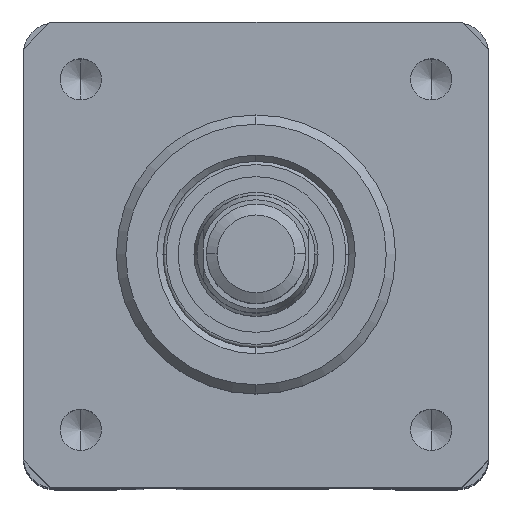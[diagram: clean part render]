
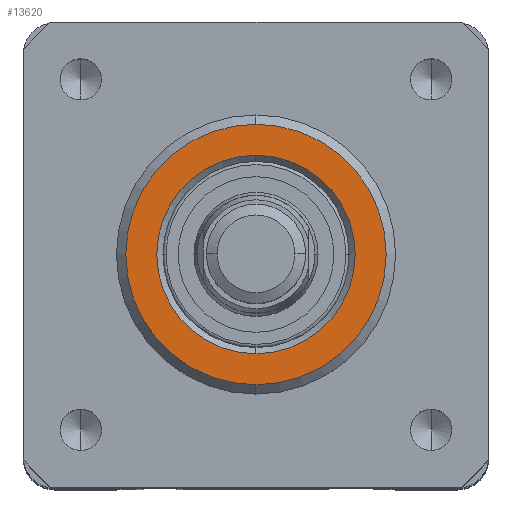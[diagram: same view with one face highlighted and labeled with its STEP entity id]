
A CAD part, top view. The second image highlights one B-rep face of the part: STEP entity #13620.
In plain terms, the highlighted planar face has unit normal (0, 0, 1).
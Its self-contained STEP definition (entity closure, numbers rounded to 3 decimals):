
#943 = CARTESIAN_POINT ( 'NONE',  ( 0., 0., 220. ) ) ;
#1484 = AXIS2_PLACEMENT_3D ( 'NONE', #15652, #13535, #21618 ) ;
#1639 = CIRCLE ( 'NONE', #4574, 21. ) ;
#2810 = EDGE_CURVE ( 'NONE', #6059, #14017, #11169, .T. ) ;
#2962 = CARTESIAN_POINT ( 'NONE',  ( 0., 21., 220. ) ) ;
#3065 = PLANE ( 'NONE',  #13889 ) ;
#3110 = AXIS2_PLACEMENT_3D ( 'NONE', #943, #25415, #9100 ) ;
#3682 = DIRECTION ( 'NONE',  ( 0., 0., -1. ) ) ;
#4574 = AXIS2_PLACEMENT_3D ( 'NONE', #12965, #25024, #12884 ) ;
#4974 = VERTEX_POINT ( 'NONE', #25033 ) ;
#5702 = DIRECTION ( 'NONE',  ( 0., -1., 0. ) ) ;
#6059 = VERTEX_POINT ( 'NONE', #17566 ) ;
#8669 = VERTEX_POINT ( 'NONE', #2962 ) ;
#9100 = DIRECTION ( 'NONE',  ( 0., 1., 0. ) ) ;
#9524 = AXIS2_PLACEMENT_3D ( 'NONE', #15789, #3682, #5702 ) ;
#11169 = CIRCLE ( 'NONE', #3110, 16. ) ;
#11753 = EDGE_CURVE ( 'NONE', #4974, #8669, #1639, .T. ) ;
#12882 = ORIENTED_EDGE ( 'NONE', *, *, #15960, .T. ) ;
#12884 = DIRECTION ( 'NONE',  ( 0., -1., 0. ) ) ;
#12965 = CARTESIAN_POINT ( 'NONE',  ( 0., 0., 220. ) ) ;
#13535 = DIRECTION ( 'NONE',  ( 0., 0., -1. ) ) ;
#13620 = ADVANCED_FACE ( 'NONE', ( #22078, #18549 ), #3065, .T. ) ;
#13889 = AXIS2_PLACEMENT_3D ( 'NONE', #25578, #15517, #23510 ) ;
#14017 = VERTEX_POINT ( 'NONE', #25786 ) ;
#14733 = EDGE_LOOP ( 'NONE', ( #21128, #12882 ) ) ;
#15517 = DIRECTION ( 'NONE',  ( 0., 0., 1. ) ) ;
#15652 = CARTESIAN_POINT ( 'NONE',  ( 0., 0., 220. ) ) ;
#15789 = CARTESIAN_POINT ( 'NONE',  ( 0., 0., 220. ) ) ;
#15960 = EDGE_CURVE ( 'NONE', #14017, #6059, #23689, .T. ) ;
#17566 = CARTESIAN_POINT ( 'NONE',  ( 0., 16., 220. ) ) ;
#18549 = FACE_OUTER_BOUND ( 'NONE', #20121, .T. ) ;
#19518 = ORIENTED_EDGE ( 'NONE', *, *, #23334, .F. ) ;
#20121 = EDGE_LOOP ( 'NONE', ( #25509, #19518 ) ) ;
#21128 = ORIENTED_EDGE ( 'NONE', *, *, #2810, .T. ) ;
#21548 = CIRCLE ( 'NONE', #9524, 21. ) ;
#21618 = DIRECTION ( 'NONE',  ( 0., 1., 0. ) ) ;
#22078 = FACE_BOUND ( 'NONE', #14733, .T. ) ;
#23334 = EDGE_CURVE ( 'NONE', #8669, #4974, #21548, .T. ) ;
#23510 = DIRECTION ( 'NONE',  ( 0., 1., 0. ) ) ;
#23689 = CIRCLE ( 'NONE', #1484, 16. ) ;
#25024 = DIRECTION ( 'NONE',  ( 0., 0., -1. ) ) ;
#25033 = CARTESIAN_POINT ( 'NONE',  ( 0., -21., 220. ) ) ;
#25415 = DIRECTION ( 'NONE',  ( 0., 0., -1. ) ) ;
#25509 = ORIENTED_EDGE ( 'NONE', *, *, #11753, .F. ) ;
#25578 = CARTESIAN_POINT ( 'NONE',  ( -37.5, -37.5, 220. ) ) ;
#25786 = CARTESIAN_POINT ( 'NONE',  ( 0., -16., 220. ) ) ;
